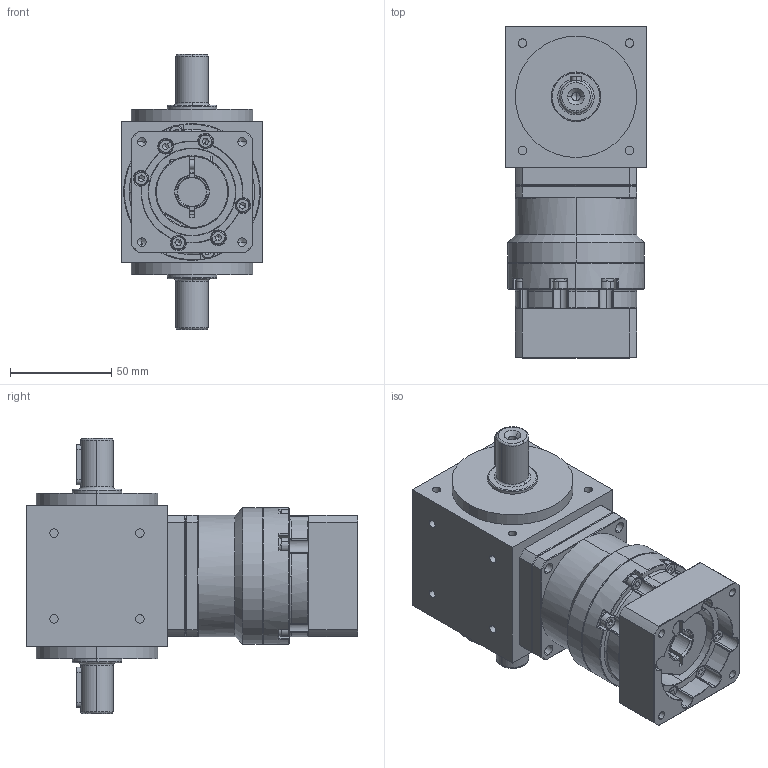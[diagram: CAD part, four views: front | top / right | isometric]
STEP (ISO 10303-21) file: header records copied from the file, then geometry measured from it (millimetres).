
FILE_DESCRIPTION (( 'STEP AP203' ), '1' );
FILE_NAME ('AAW070AS-L1-2P 14-50-70-M5.STEP', '2024-12-23T08:27:41', ( '' ), ( '' ), 'SwSTEP 2.0', 'SolidWorks 2021', '' );
FILE_SCHEMA (( 'CONFIG_CONTROL_DESIGN' ));
Length unit declared in the file: millimetre
Products named in the file (3): AAW070AS-L1-2P 14-50-70-M5; VRB-060-L1-S2-P1 14-50-70-M5
Assembly tree (2 placements, depth 2):
  AAW070AS-L1-2P 14-50-70-M5
    AAW070AS-L1-2P 14-50-70-M5
    VRB-060-L1-S2-P1 14-50-70-M5
Bounding box: 70 x 164 x 136 mm (x, y, z)
Volume: 635523.8 mm3; surface area: 100979.6 mm2
Topology: 32 solids, 32 shells, 1066 faces, 2591 edges, 1613 vertices
Faces by surface type: plane 418, cylinder 378, cone 196, torus 50, bspline 24
Entity records: 32622 total; most frequent: CARTESIAN_POINT 7198, DIRECTION 5556, ORIENTED_EDGE 5078, EDGE_CURVE 2539, AXIS2_PLACEMENT_3D 2220, VERTEX_POINT 1613, EDGE_LOOP 1184, CIRCLE 1173
